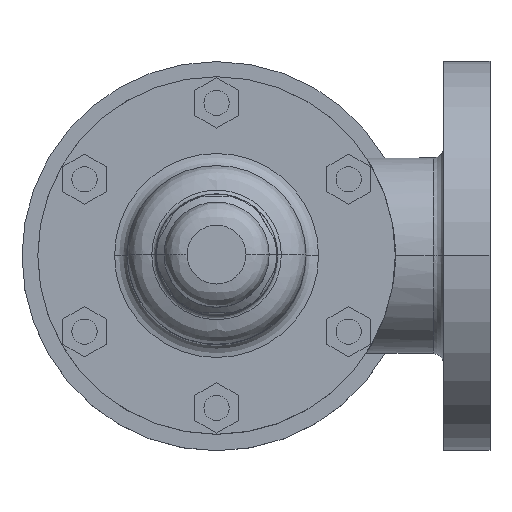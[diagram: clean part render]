
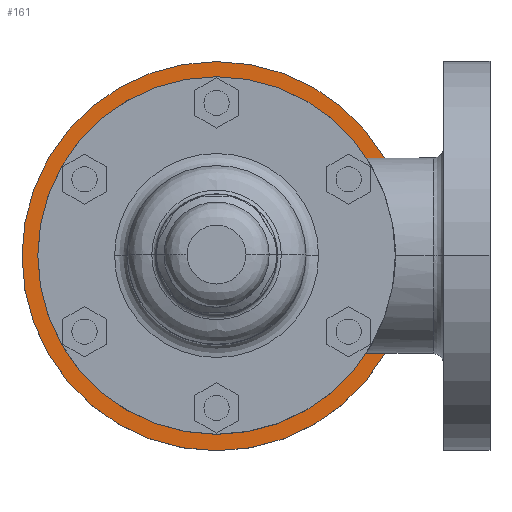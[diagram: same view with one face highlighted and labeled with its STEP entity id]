
A CAD part, top view. The second image highlights one B-rep face of the part: STEP entity #161.
In plain terms, the highlighted planar face has unit normal (0, 0, 1).
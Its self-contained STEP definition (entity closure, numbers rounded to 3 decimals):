
#161=ADVANCED_FACE('',(#827,#828,#829,#830,#831,#832,#833,#834,#835,#836),#826,.F.);
#826=PLANE('',#2895);
#827=FACE_OUTER_BOUND('',#2896,.T.);
#828=FACE_BOUND('',#2897,.T.);
#829=FACE_BOUND('',#2898,.T.);
#830=FACE_BOUND('',#2899,.T.);
#831=FACE_BOUND('',#2900,.T.);
#832=FACE_BOUND('',#2901,.T.);
#833=FACE_BOUND('',#2902,.T.);
#834=FACE_BOUND('',#2903,.T.);
#835=FACE_BOUND('',#2904,.T.);
#836=FACE_BOUND('',#2905,.T.);
#2892=CARTESIAN_POINT('',(195.,-170.215,-108.));
#2893=DIRECTION('',(0.,0.,-1.));
#2894=DIRECTION('',(-1.,0.,0.));
#2895=AXIS2_PLACEMENT_3D('',#2892,#2893,#2894);
#2896=EDGE_LOOP('',(#4453,#4454));
#2897=EDGE_LOOP('',(#4455,#4456));
#2898=EDGE_LOOP('',(#4457,#4458));
#2899=EDGE_LOOP('',(#4459,#4460));
#2900=EDGE_LOOP('',(#4461,#4462));
#2901=EDGE_LOOP('',(#4463,#4464));
#2902=EDGE_LOOP('',(#4465,#4466));
#2903=EDGE_LOOP('',(#4467,#4468));
#2904=EDGE_LOOP('',(#4469,#4470));
#2905=EDGE_LOOP('',(#4471,#4472));
#4453=ORIENTED_EDGE('',*,*,#5494,.F.);
#4454=ORIENTED_EDGE('',*,*,#5495,.F.);
#4455=ORIENTED_EDGE('',*,*,#5496,.F.);
#4456=ORIENTED_EDGE('',*,*,#5497,.F.);
#4457=ORIENTED_EDGE('',*,*,#5498,.F.);
#4458=ORIENTED_EDGE('',*,*,#5499,.F.);
#4459=ORIENTED_EDGE('',*,*,#5500,.F.);
#4460=ORIENTED_EDGE('',*,*,#5501,.F.);
#4461=ORIENTED_EDGE('',*,*,#5502,.F.);
#4462=ORIENTED_EDGE('',*,*,#5503,.F.);
#4463=ORIENTED_EDGE('',*,*,#5504,.F.);
#4464=ORIENTED_EDGE('',*,*,#5505,.F.);
#4465=ORIENTED_EDGE('',*,*,#5506,.F.);
#4466=ORIENTED_EDGE('',*,*,#5507,.F.);
#4467=ORIENTED_EDGE('',*,*,#5508,.F.);
#4468=ORIENTED_EDGE('',*,*,#5509,.F.);
#4469=ORIENTED_EDGE('',*,*,#5510,.F.);
#4470=ORIENTED_EDGE('',*,*,#5511,.F.);
#4471=ORIENTED_EDGE('',*,*,#5512,.T.);
#4472=ORIENTED_EDGE('',*,*,#5513,.T.);
#5494=EDGE_CURVE('',#6909,#6910,#6911,.T.);
#5495=EDGE_CURVE('',#6910,#6909,#6917,.T.);
#5496=EDGE_CURVE('',#6923,#6924,#6925,.T.);
#5497=EDGE_CURVE('',#6924,#6923,#6931,.T.);
#5498=EDGE_CURVE('',#6937,#6938,#6939,.T.);
#5499=EDGE_CURVE('',#6938,#6937,#6945,.T.);
#5500=EDGE_CURVE('',#6951,#6952,#6953,.T.);
#5501=EDGE_CURVE('',#6952,#6951,#6959,.T.);
#5502=EDGE_CURVE('',#6965,#6966,#6967,.T.);
#5503=EDGE_CURVE('',#6966,#6965,#6973,.T.);
#5504=EDGE_CURVE('',#6979,#6980,#6981,.T.);
#5505=EDGE_CURVE('',#6980,#6979,#6987,.T.);
#5506=EDGE_CURVE('',#6993,#6994,#6995,.T.);
#5507=EDGE_CURVE('',#6994,#6993,#7001,.T.);
#5508=EDGE_CURVE('',#7007,#7008,#7009,.T.);
#5509=EDGE_CURVE('',#7008,#7007,#7015,.T.);
#5510=EDGE_CURVE('',#7021,#7022,#7023,.T.);
#5511=EDGE_CURVE('',#7022,#7021,#7029,.T.);
#5512=EDGE_CURVE('',#7035,#7036,#7037,.T.);
#5513=EDGE_CURVE('',#7036,#7035,#7043,.T.);
#6909=VERTEX_POINT('',#10421);
#6910=VERTEX_POINT('',#10422);
#6911=CIRCLE('',#10426,92.5);
#6917=CIRCLE('',#10430,92.5);
#6923=VERTEX_POINT('',#10431);
#6924=VERTEX_POINT('',#10432);
#6925=CIRCLE('',#10436,9.5);
#6931=CIRCLE('',#10440,9.5);
#6937=VERTEX_POINT('',#10441);
#6938=VERTEX_POINT('',#10442);
#6939=CIRCLE('',#10446,9.5);
#6945=CIRCLE('',#10450,9.5);
#6951=VERTEX_POINT('',#10451);
#6952=VERTEX_POINT('',#10452);
#6953=CIRCLE('',#10456,9.5);
#6959=CIRCLE('',#10460,9.5);
#6965=VERTEX_POINT('',#10461);
#6966=VERTEX_POINT('',#10462);
#6967=CIRCLE('',#10466,9.5);
#6973=CIRCLE('',#10470,9.5);
#6979=VERTEX_POINT('',#10471);
#6980=VERTEX_POINT('',#10472);
#6981=CIRCLE('',#10476,9.5);
#6987=CIRCLE('',#10480,9.5);
#6993=VERTEX_POINT('',#10481);
#6994=VERTEX_POINT('',#10482);
#6995=CIRCLE('',#10486,9.5);
#7001=CIRCLE('',#10490,9.5);
#7007=VERTEX_POINT('',#10491);
#7008=VERTEX_POINT('',#10492);
#7009=CIRCLE('',#10496,9.5);
#7015=CIRCLE('',#10500,9.5);
#7021=VERTEX_POINT('',#10501);
#7022=VERTEX_POINT('',#10502);
#7023=CIRCLE('',#10506,9.5);
#7029=CIRCLE('',#10510,9.5);
#7035=VERTEX_POINT('',#10511);
#7036=VERTEX_POINT('',#10512);
#7037=CIRCLE('',#10516,51.5);
#7043=CIRCLE('',#10520,51.5);
#10421=CARTESIAN_POINT('',(92.5,0.,-108.));
#10422=CARTESIAN_POINT('',(-92.5,0.,-108.));
#10423=CARTESIAN_POINT('',(0.,0.,-108.));
#10424=DIRECTION('',(0.,0.,-1.));
#10425=DIRECTION('',(-1.,0.,0.));
#10426=AXIS2_PLACEMENT_3D('',#10423,#10424,#10425);
#10427=CARTESIAN_POINT('',(0.,0.,-108.));
#10428=DIRECTION('',(0.,0.,-1.));
#10429=DIRECTION('',(-1.,0.,0.));
#10430=AXIS2_PLACEMENT_3D('',#10427,#10428,#10429);
#10431=CARTESIAN_POINT('',(-19.201,69.291,-108.));
#10432=CARTESIAN_POINT('',(-38.201,69.291,-108.));
#10433=CARTESIAN_POINT('',(-28.701,69.291,-108.));
#10434=DIRECTION('',(0.,0.,1.));
#10435=DIRECTION('',(-1.,0.,0.));
#10436=AXIS2_PLACEMENT_3D('',#10433,#10434,#10435);
#10437=CARTESIAN_POINT('',(-28.701,69.291,-108.));
#10438=DIRECTION('',(0.,0.,1.));
#10439=DIRECTION('',(-1.,0.,0.));
#10440=AXIS2_PLACEMENT_3D('',#10437,#10438,#10439);
#10441=CARTESIAN_POINT('',(-59.791,28.701,-108.));
#10442=CARTESIAN_POINT('',(-78.791,28.701,-108.));
#10443=CARTESIAN_POINT('',(-69.291,28.701,-108.));
#10444=DIRECTION('',(0.,0.,1.));
#10445=DIRECTION('',(-1.,0.,0.));
#10446=AXIS2_PLACEMENT_3D('',#10443,#10444,#10445);
#10447=CARTESIAN_POINT('',(-69.291,28.701,-108.));
#10448=DIRECTION('',(0.,0.,1.));
#10449=DIRECTION('',(-1.,0.,0.));
#10450=AXIS2_PLACEMENT_3D('',#10447,#10448,#10449);
#10451=CARTESIAN_POINT('',(-59.791,-28.701,-108.));
#10452=CARTESIAN_POINT('',(-78.791,-28.701,-108.));
#10453=CARTESIAN_POINT('',(-69.291,-28.701,-108.));
#10454=DIRECTION('',(0.,0.,1.));
#10455=DIRECTION('',(-1.,0.,0.));
#10456=AXIS2_PLACEMENT_3D('',#10453,#10454,#10455);
#10457=CARTESIAN_POINT('',(-69.291,-28.701,-108.));
#10458=DIRECTION('',(0.,0.,1.));
#10459=DIRECTION('',(-1.,0.,0.));
#10460=AXIS2_PLACEMENT_3D('',#10457,#10458,#10459);
#10461=CARTESIAN_POINT('',(-19.201,-69.291,-108.));
#10462=CARTESIAN_POINT('',(-38.201,-69.291,-108.));
#10463=CARTESIAN_POINT('',(-28.701,-69.291,-108.));
#10464=DIRECTION('',(0.,0.,1.));
#10465=DIRECTION('',(-1.,0.,0.));
#10466=AXIS2_PLACEMENT_3D('',#10463,#10464,#10465);
#10467=CARTESIAN_POINT('',(-28.701,-69.291,-108.));
#10468=DIRECTION('',(0.,0.,1.));
#10469=DIRECTION('',(-1.,0.,0.));
#10470=AXIS2_PLACEMENT_3D('',#10467,#10468,#10469);
#10471=CARTESIAN_POINT('',(38.201,-69.291,-108.));
#10472=CARTESIAN_POINT('',(19.201,-69.291,-108.));
#10473=CARTESIAN_POINT('',(28.701,-69.291,-108.));
#10474=DIRECTION('',(0.,0.,1.));
#10475=DIRECTION('',(-1.,0.,0.));
#10476=AXIS2_PLACEMENT_3D('',#10473,#10474,#10475);
#10477=CARTESIAN_POINT('',(28.701,-69.291,-108.));
#10478=DIRECTION('',(0.,0.,1.));
#10479=DIRECTION('',(-1.,0.,0.));
#10480=AXIS2_PLACEMENT_3D('',#10477,#10478,#10479);
#10481=CARTESIAN_POINT('',(78.791,-28.701,-108.));
#10482=CARTESIAN_POINT('',(59.791,-28.701,-108.));
#10483=CARTESIAN_POINT('',(69.291,-28.701,-108.));
#10484=DIRECTION('',(0.,0.,1.));
#10485=DIRECTION('',(-1.,0.,0.));
#10486=AXIS2_PLACEMENT_3D('',#10483,#10484,#10485);
#10487=CARTESIAN_POINT('',(69.291,-28.701,-108.));
#10488=DIRECTION('',(0.,0.,1.));
#10489=DIRECTION('',(-1.,0.,0.));
#10490=AXIS2_PLACEMENT_3D('',#10487,#10488,#10489);
#10491=CARTESIAN_POINT('',(78.791,28.701,-108.));
#10492=CARTESIAN_POINT('',(59.791,28.701,-108.));
#10493=CARTESIAN_POINT('',(69.291,28.701,-108.));
#10494=DIRECTION('',(0.,0.,1.));
#10495=DIRECTION('',(-1.,0.,0.));
#10496=AXIS2_PLACEMENT_3D('',#10493,#10494,#10495);
#10497=CARTESIAN_POINT('',(69.291,28.701,-108.));
#10498=DIRECTION('',(0.,0.,1.));
#10499=DIRECTION('',(-1.,0.,0.));
#10500=AXIS2_PLACEMENT_3D('',#10497,#10498,#10499);
#10501=CARTESIAN_POINT('',(38.201,69.291,-108.));
#10502=CARTESIAN_POINT('',(19.201,69.291,-108.));
#10503=CARTESIAN_POINT('',(28.701,69.291,-108.));
#10504=DIRECTION('',(0.,0.,1.));
#10505=DIRECTION('',(-1.,0.,0.));
#10506=AXIS2_PLACEMENT_3D('',#10503,#10504,#10505);
#10507=CARTESIAN_POINT('',(28.701,69.291,-108.));
#10508=DIRECTION('',(0.,0.,1.));
#10509=DIRECTION('',(-1.,0.,0.));
#10510=AXIS2_PLACEMENT_3D('',#10507,#10508,#10509);
#10511=CARTESIAN_POINT('',(-51.5,0.,-108.));
#10512=CARTESIAN_POINT('',(51.5,0.,-108.));
#10513=CARTESIAN_POINT('',(0.,0.,-108.));
#10514=DIRECTION('',(0.,0.,-1.));
#10515=DIRECTION('',(-1.,0.,0.));
#10516=AXIS2_PLACEMENT_3D('',#10513,#10514,#10515);
#10517=CARTESIAN_POINT('',(0.,0.,-108.));
#10518=DIRECTION('',(0.,0.,-1.));
#10519=DIRECTION('',(-1.,0.,0.));
#10520=AXIS2_PLACEMENT_3D('',#10517,#10518,#10519);
